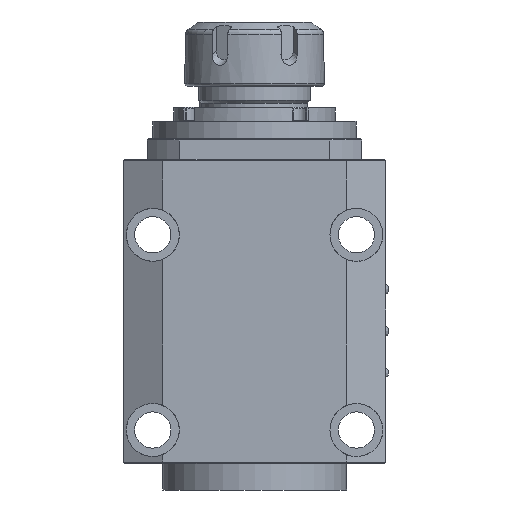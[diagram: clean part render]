
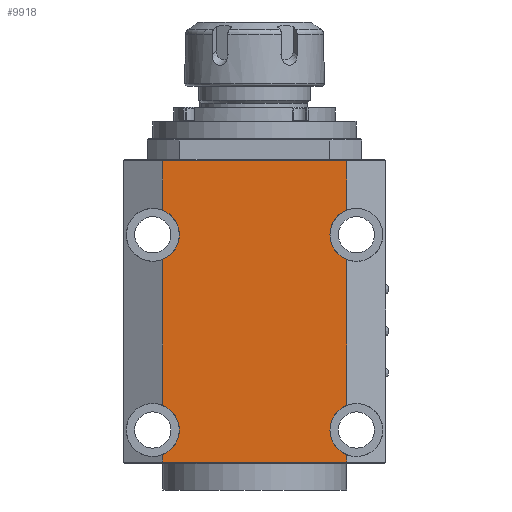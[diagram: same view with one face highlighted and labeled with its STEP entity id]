
A CAD part, front view. The second image highlights one B-rep face of the part: STEP entity #9918.
In plain terms, the highlighted planar face has unit normal (0, -1, 0).
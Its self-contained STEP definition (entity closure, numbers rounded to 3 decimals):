
#480=LINE('',#14333,#1408);
#499=LINE('',#14376,#1427);
#500=LINE('',#14382,#1428);
#501=LINE('',#14388,#1429);
#503=LINE('',#14392,#1431);
#504=LINE('',#14398,#1432);
#505=LINE('',#14404,#1433);
#506=LINE('',#14405,#1434);
#1408=VECTOR('',#11620,10.);
#1427=VECTOR('',#11655,10.);
#1428=VECTOR('',#11660,10.);
#1429=VECTOR('',#11665,10.);
#1431=VECTOR('',#11669,10.);
#1432=VECTOR('',#11674,10.);
#1433=VECTOR('',#11679,10.);
#1434=VECTOR('',#11680,10.);
#2296=PLANE('',#10650);
#2684=FACE_OUTER_BOUND('',#3274,.T.);
#3274=EDGE_LOOP('',(#6776,#6777,#6778,#6779,#6780,#6781,#6782,#6783,#6784,
#6785,#6786,#6787,#6788,#6789));
#3930=CIRCLE('',#10651,9.5);
#3931=CIRCLE('',#10652,9.5);
#3932=CIRCLE('',#10653,9.5);
#3933=CIRCLE('',#10654,9.5);
#3934=CIRCLE('',#10655,9.5);
#3935=CIRCLE('',#10656,9.5);
#4330=VERTEX_POINT('',#14326);
#4332=VERTEX_POINT('',#14332);
#4348=VERTEX_POINT('',#14375);
#4350=VERTEX_POINT('',#14379);
#4351=VERTEX_POINT('',#14381);
#4353=VERTEX_POINT('',#14385);
#4354=VERTEX_POINT('',#14387);
#4355=VERTEX_POINT('',#14391);
#4356=VERTEX_POINT('',#14393);
#4357=VERTEX_POINT('',#14395);
#4358=VERTEX_POINT('',#14397);
#4359=VERTEX_POINT('',#14399);
#4360=VERTEX_POINT('',#14401);
#4361=VERTEX_POINT('',#14403);
#5275=EDGE_CURVE('',#4332,#4330,#480,.T.);
#5297=EDGE_CURVE('',#4348,#4330,#499,.T.);
#5300=EDGE_CURVE('',#4351,#4350,#500,.T.);
#5303=EDGE_CURVE('',#4354,#4353,#501,.T.);
#5305=EDGE_CURVE('',#4332,#4355,#503,.T.);
#5306=EDGE_CURVE('',#4355,#4356,#3930,.T.);
#5307=EDGE_CURVE('',#4356,#4357,#3931,.T.);
#5308=EDGE_CURVE('',#4357,#4358,#504,.T.);
#5309=EDGE_CURVE('',#4358,#4359,#3932,.T.);
#5310=EDGE_CURVE('',#4359,#4360,#3933,.T.);
#5311=EDGE_CURVE('',#4360,#4361,#505,.T.);
#5312=EDGE_CURVE('',#4354,#4361,#506,.T.);
#5313=EDGE_CURVE('',#4353,#4351,#3934,.T.);
#5314=EDGE_CURVE('',#4350,#4348,#3935,.T.);
#6776=ORIENTED_EDGE('',*,*,#5275,.F.);
#6777=ORIENTED_EDGE('',*,*,#5305,.T.);
#6778=ORIENTED_EDGE('',*,*,#5306,.T.);
#6779=ORIENTED_EDGE('',*,*,#5307,.T.);
#6780=ORIENTED_EDGE('',*,*,#5308,.T.);
#6781=ORIENTED_EDGE('',*,*,#5309,.T.);
#6782=ORIENTED_EDGE('',*,*,#5310,.T.);
#6783=ORIENTED_EDGE('',*,*,#5311,.T.);
#6784=ORIENTED_EDGE('',*,*,#5312,.F.);
#6785=ORIENTED_EDGE('',*,*,#5303,.T.);
#6786=ORIENTED_EDGE('',*,*,#5313,.T.);
#6787=ORIENTED_EDGE('',*,*,#5300,.T.);
#6788=ORIENTED_EDGE('',*,*,#5314,.T.);
#6789=ORIENTED_EDGE('',*,*,#5297,.T.);
#9918=ADVANCED_FACE('',(#2684),#2296,.T.);
#10650=AXIS2_PLACEMENT_3D('',#14390,#11667,#11668);
#10651=AXIS2_PLACEMENT_3D('',#14394,#11670,#11671);
#10652=AXIS2_PLACEMENT_3D('',#14396,#11672,#11673);
#10653=AXIS2_PLACEMENT_3D('',#14400,#11675,#11676);
#10654=AXIS2_PLACEMENT_3D('',#14402,#11677,#11678);
#10655=AXIS2_PLACEMENT_3D('',#14406,#11681,#11682);
#10656=AXIS2_PLACEMENT_3D('',#14407,#11683,#11684);
#11620=DIRECTION('',(-1.,0.,0.));
#11655=DIRECTION('',(0.,0.,-1.));
#11660=DIRECTION('',(0.,0.,-1.));
#11665=DIRECTION('',(0.,0.,-1.));
#11667=DIRECTION('center_axis',(0.,-1.,0.));
#11668=DIRECTION('ref_axis',(1.,0.,0.));
#11669=DIRECTION('',(0.,0.,1.));
#11670=DIRECTION('center_axis',(0.,1.,0.));
#11671=DIRECTION('ref_axis',(1.,0.,0.));
#11672=DIRECTION('center_axis',(0.,1.,0.));
#11673=DIRECTION('ref_axis',(1.,0.,0.));
#11674=DIRECTION('',(0.,0.,1.));
#11675=DIRECTION('center_axis',(0.,1.,0.));
#11676=DIRECTION('ref_axis',(1.,0.,0.));
#11677=DIRECTION('center_axis',(0.,1.,0.));
#11678=DIRECTION('ref_axis',(1.,0.,0.));
#11679=DIRECTION('',(0.,0.,1.));
#11680=DIRECTION('',(1.,0.,0.));
#11681=DIRECTION('center_axis',(0.,1.,0.));
#11682=DIRECTION('ref_axis',(1.,0.,0.));
#11683=DIRECTION('center_axis',(0.,1.,0.));
#11684=DIRECTION('ref_axis',(1.,0.,0.));
#14326=CARTESIAN_POINT('',(-33.,-61.,-54.));
#14332=CARTESIAN_POINT('',(33.,-61.,-54.));
#14333=CARTESIAN_POINT('',(-16.5,-61.,-54.));
#14375=CARTESIAN_POINT('',(-33.,-61.,-51.332));
#14376=CARTESIAN_POINT('',(-33.,-61.,0.));
#14379=CARTESIAN_POINT('',(-33.,-61.,-33.668));
#14381=CARTESIAN_POINT('',(-33.,-61.,18.668));
#14382=CARTESIAN_POINT('',(-33.,-61.,0.));
#14385=CARTESIAN_POINT('',(-33.,-61.,36.332));
#14387=CARTESIAN_POINT('',(-33.,-61.,54.));
#14388=CARTESIAN_POINT('',(-33.,-61.,0.));
#14390=CARTESIAN_POINT('Origin',(-33.,-61.,0.));
#14391=CARTESIAN_POINT('',(33.,-61.,-51.332));
#14392=CARTESIAN_POINT('',(33.,-61.,0.));
#14393=CARTESIAN_POINT('',(27.,-61.,-42.5));
#14394=CARTESIAN_POINT('Origin',(36.5,-61.,-42.5));
#14395=CARTESIAN_POINT('',(33.,-61.,-33.668));
#14396=CARTESIAN_POINT('Origin',(36.5,-61.,-42.5));
#14397=CARTESIAN_POINT('',(33.,-61.,18.668));
#14398=CARTESIAN_POINT('',(33.,-61.,0.));
#14399=CARTESIAN_POINT('',(27.,-61.,27.5));
#14400=CARTESIAN_POINT('Origin',(36.5,-61.,27.5));
#14401=CARTESIAN_POINT('',(33.,-61.,36.332));
#14402=CARTESIAN_POINT('Origin',(36.5,-61.,27.5));
#14403=CARTESIAN_POINT('',(33.,-61.,54.));
#14404=CARTESIAN_POINT('',(33.,-61.,0.));
#14405=CARTESIAN_POINT('',(-16.5,-61.,54.));
#14406=CARTESIAN_POINT('Origin',(-36.5,-61.,27.5));
#14407=CARTESIAN_POINT('Origin',(-36.5,-61.,-42.5));
